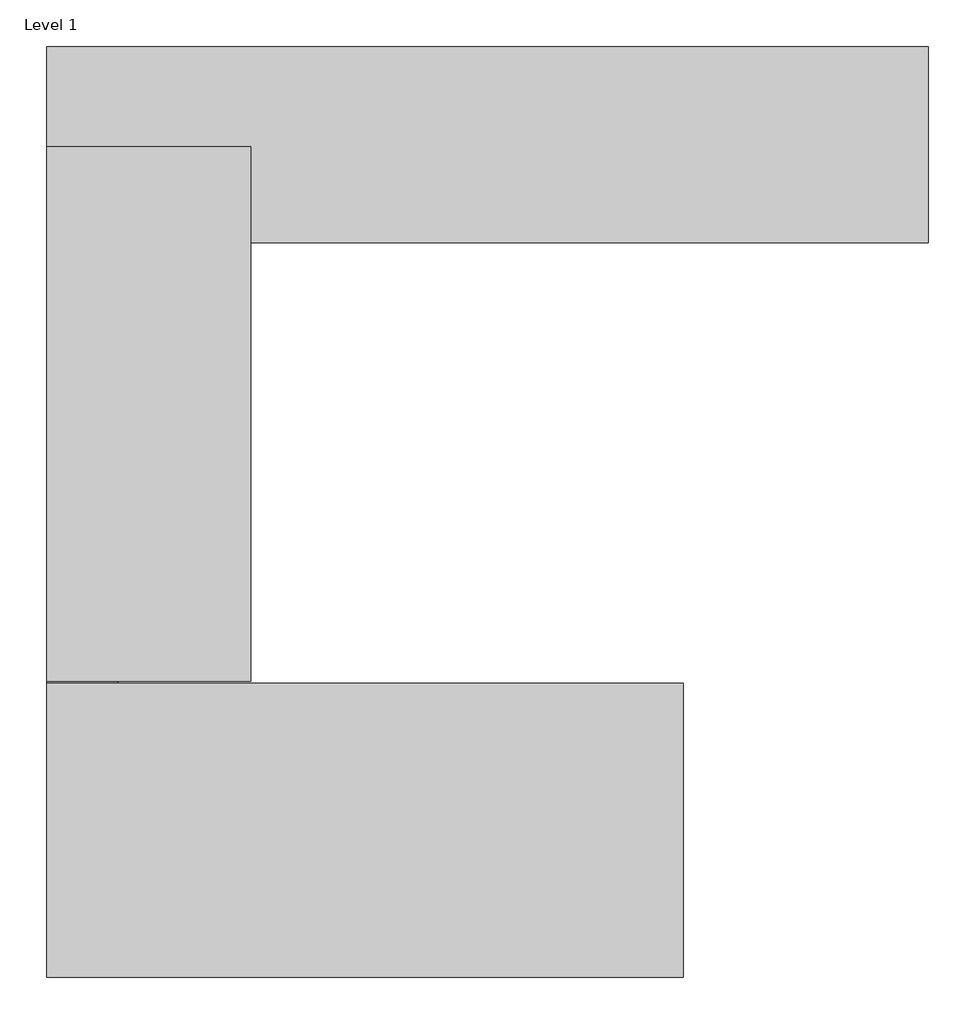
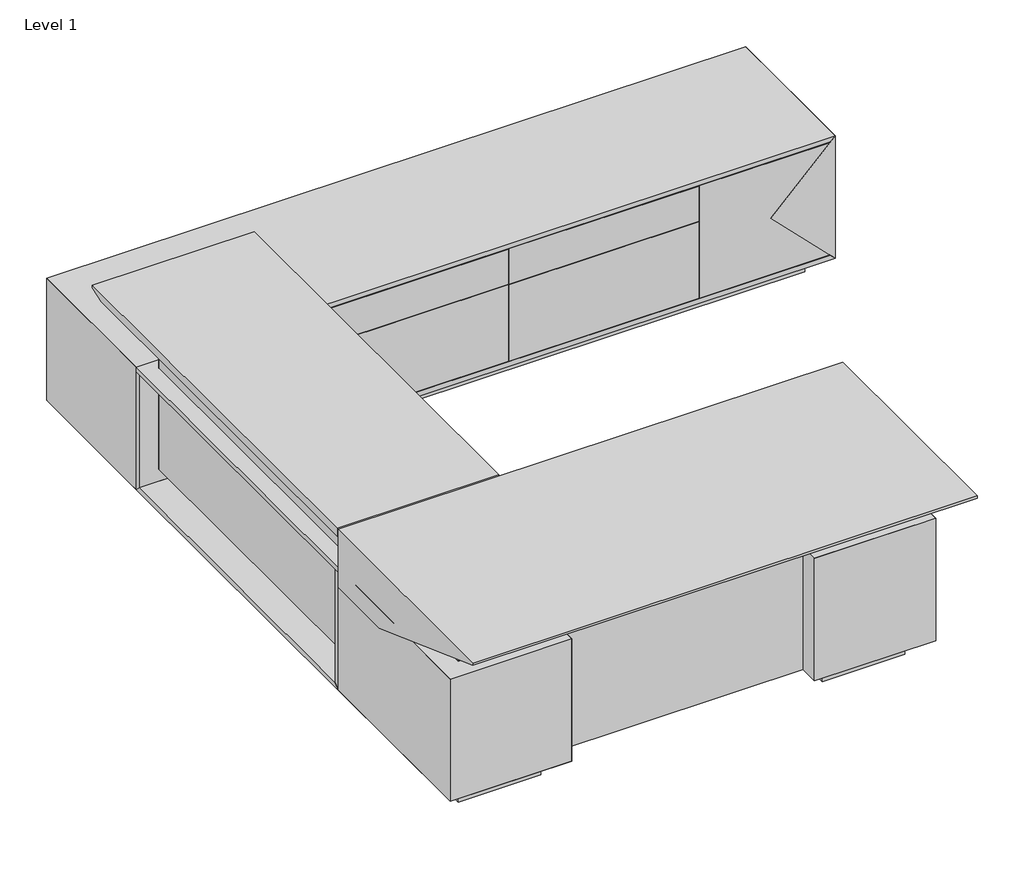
# One storey, incomplete: 7 proxies.
"""IFC4 building model written with IfcOpenShell, lengths in millimetres."""

from ifc_helpers import new_model, si_unit, origin, place, context, project, spatial, transform, mapped, element, save
from components import generic_models_2f6af5de, generic_models_ebba18c2, generic_models_c0b0dad1, generic_models_1866fcce, generic_models_c5bd2978, generic_models_5b13a13f

model = new_model("IFC4")

# Units and contexts
model_context = context("Model", 3, world=origin())
ifc_project = project(units=[si_unit("LENGTHUNIT", "METRE", prefix="MILLI")], contexts=[model_context])

# Site, building, storey
site = spatial("IfcSite", under=ifc_project)
building = spatial("IfcBuilding", under=site)
storey = spatial("IfcBuildingStorey", under=building, Name="Level 1", Elevation=0.0)

# Proxies
placement = place(None, origin())
generic_models_shape = generic_models_2f6af5de(model_context)
element("IfcBuildingElementProxy", 1, Name="CCN^APOGEE_L4 25x42 LIFT TOP BRIDGE-PARTS SOLID", ObjectType="CCN^APOGEE_L4 25x42 LIFT TOP BRIDGE-PARTS SOLID", at=placement, inside=storey, context=model_context, shape_type="MappedRepresentation", body=[
    mapped(generic_models_shape, transform((848.556437, -1981.2, 711.2), x_axis=(0.0, 1.0, 0.0), y_axis=(0.0, 0.0, 1.0), z_axis=(1.0, 0.0, 0.0))),
])
generic_models_2_shape = generic_models_ebba18c2(model_context)
element("IfcBuildingElementProxy", 2, Name="SS LIFT ANGLE_16_LT_OMT_LINAK", ObjectType="SS LIFT ANGLE_16_LT_OMT_LINAK", at=placement, inside=storey, context=model_context, shape_type="MappedRepresentation", body=[
    mapped(generic_models_2_shape, transform((298.341637, -1690.5, 711.2), x_axis=(1.0, 0.0, 0.0), y_axis=(0.0, 0.0, 1.0), z_axis=(0.0, -1.0, 0.0))),
])
generic_models_3_shape = generic_models_c0b0dad1(model_context)
element("IfcBuildingElementProxy", 3, Name="SS LIFT ANGLE_16_RT_OMT_LINAK", ObjectType="SS LIFT ANGLE_16_RT_OMT_LINAK", at=placement, inside=storey, context=model_context, shape_type="MappedRepresentation", body=[
    mapped(generic_models_3_shape, transform((298.341637, -900.3, 711.2), x_axis=(1.0, 0.0, 0.0), y_axis=(0.0, 0.0, 1.0), z_axis=(0.0, -1.0, 0.0))),
])
generic_models_4_shape = generic_models_1866fcce(model_context)
element("IfcBuildingElementProxy", 4, Name="QUADRATURE^FIXED TOP-METAL-CANTILEVER BRACKET", ObjectType="QUADRATURE^FIXED TOP-METAL-CANTILEVER BRACKET", at=placement, inside=storey, context=model_context, shape_type="MappedRepresentation", body=[
    mapped(generic_models_4_shape, transform((594.556437, -2647.95, 254.0), x_axis=(1.0, 0.0, 0.0), y_axis=(0.0, 0.0, 1.0), z_axis=(0.0, -1.0, 0.0))),
])
element("IfcBuildingElementProxy", 5, Name="QUADRATURE^FIXED TOP-METAL-CANTILEVER BRACKET", ObjectType="QUADRATURE^FIXED TOP-METAL-CANTILEVER BRACKET", at=placement, inside=storey, context=model_context, shape_type="MappedRepresentation", body=[
    mapped(generic_models_4_shape, transform((1762.956437, -2647.95, 254.0), x_axis=(1.0, 0.0, 0.0), y_axis=(0.0, 0.0, 1.0), z_axis=(0.0, -1.0, 0.0))),
])
generic_models_5_shape = generic_models_c5bd2978(model_context)
element("IfcBuildingElementProxy", 6, Name="CCN^APOGEE_24x108 RT CREDENZA-PARTS SOLID", ObjectType="CCN^APOGEE_24x108 RT CREDENZA-PARTS SOLID", at=placement, inside=storey, context=model_context, shape_type="MappedRepresentation", body=[
    mapped(generic_models_5_shape, transform((232.606437, 0.0, 95.25), x_axis=(1.0, 0.0, 0.0), y_axis=(0.0, 0.0, 1.0), z_axis=(0.0, -1.0, 0.0))),
])
generic_models_6_shape = generic_models_5b13a13f(model_context)
element("IfcBuildingElementProxy", 7, Name="CCN^APOGEE_L4 36x78 FIXED TOP DESK-LIFT BRIDGE RT PARTS SOLID", ObjectType="CCN^APOGEE_L4 36x78 FIXED TOP DESK-LIFT BRIDGE RT PARTS SOLID", at=placement, inside=storey, context=model_context, shape_type="MappedRepresentation", body=[
    mapped(generic_models_6_shape, transform((1661.356437, -2724.15, 0.0), x_axis=(1.0, 0.0, 0.0), y_axis=(0.0, 0.0, 1.0), z_axis=(0.0, -1.0, 0.0))),
])

save(model, "model.ifc")
